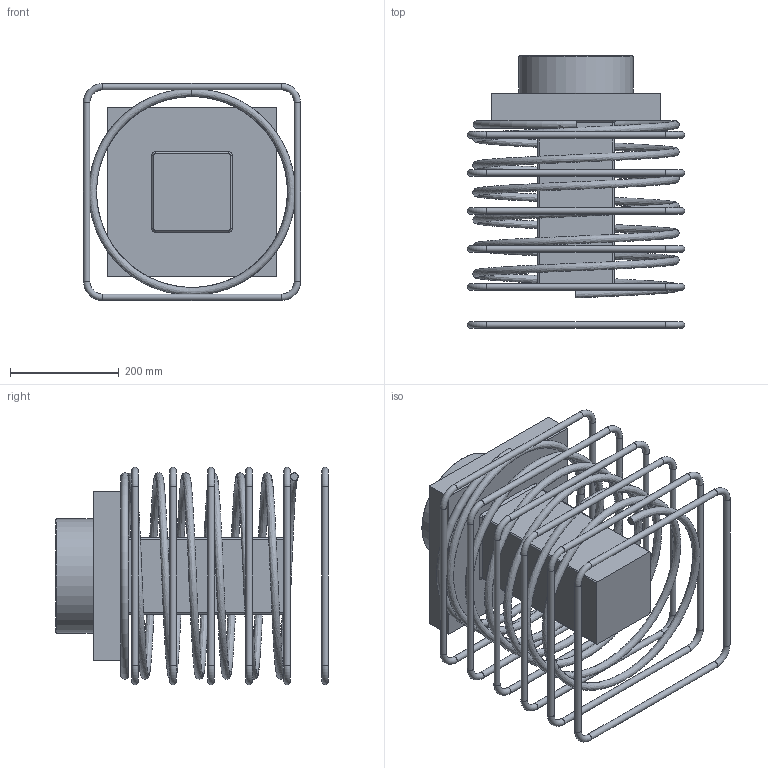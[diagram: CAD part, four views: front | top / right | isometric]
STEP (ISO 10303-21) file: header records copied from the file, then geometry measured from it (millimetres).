
FILE_DESCRIPTION(/* description */ (''),/* implementation_level */ '2;1');
FILE_NAME(/* name */ 'Z:\04 Publications\05 Give-out\BBR\6_3D_Models\BBR VT CONA CMB\04 x 406\BBR VT CONA CMB SP_04 x 406_Anchorage A Assembly.stp',/* time_stamp */ '2017-05-09T12:02:51+02:00',/* author */ ('IP'),/* organization */ (''),/* preprocessor_version */ 'ST-DEVELOPER v16.1',/* originating_system */ 'Autodesk Inventor 2016',/* authorisation */ '');
FILE_SCHEMA (('AUTOMOTIVE_DESIGN { 1 0 10303 214 3 1 1 }'));
Length unit declared in the file: millimetre
Products named in the file (1): BBR VT CONA CMB SP_04 x 406_Anchorage A Assembly
Bounding box: 400 x 502.1 x 400 mm (x, y, z)
Volume: 15367544.8 mm3; surface area: 1158055.7 mm2
Topology: 3 solids, 3 shells, 722 faces, 1916 edges, 1260 vertices
Faces by surface type: plane 354, bspline 308, cylinder 29, torus 25, cone 6
Full cylindrical faces by diameter (mm): 12 x24, 210 x1
Entity records: 27710 total; most frequent: CARTESIAN_POINT 11280, ORIENTED_EDGE 3732, DIRECTION 2141, EDGE_CURVE 1863, VERTEX_POINT 1259, LINE 1169, VECTOR 1169, EDGE_LOOP 853
